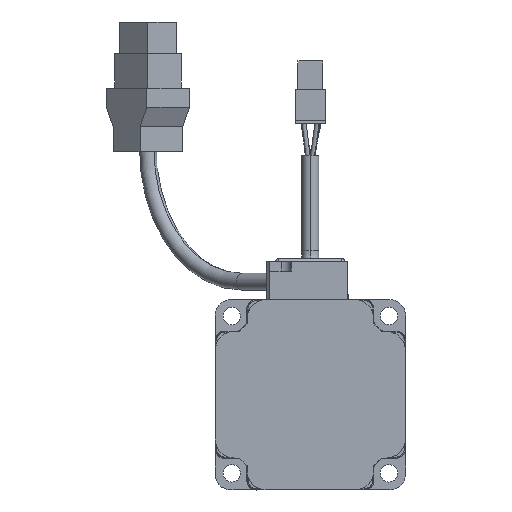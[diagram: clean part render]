
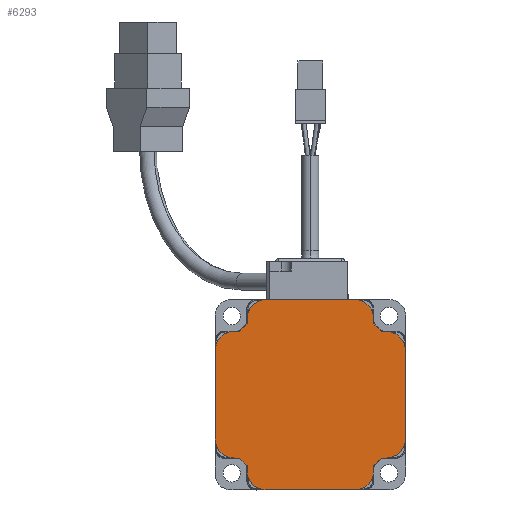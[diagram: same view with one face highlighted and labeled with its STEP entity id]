
A CAD part, front view. The second image highlights one B-rep face of the part: STEP entity #6293.
In plain terms, the highlighted planar face has unit normal (0, -1, 0).
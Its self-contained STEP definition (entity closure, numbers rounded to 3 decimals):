
#52=DIRECTION('',(1.,0.,0.));
#53=VECTOR('',#52,1.597);
#54=CARTESIAN_POINT('',(22.338,-70.75,-19.935));
#55=LINE('',#54,#53);
#100=CARTESIAN_POINT('',(-13.935,-70.75,23.935));
#101=DIRECTION('',(0.,1.,0.));
#102=DIRECTION('',(-1.,0.,0.));
#103=AXIS2_PLACEMENT_3D('',#100,#101,#102);
#105=CARTESIAN_POINT('',(13.935,-70.75,23.935));
#106=DIRECTION('',(0.,1.,0.));
#107=DIRECTION('',(0.,0.,1.));
#108=AXIS2_PLACEMENT_3D('',#105,#106,#107);
#110=DIRECTION('',(0.,0.,-1.));
#111=VECTOR('',#110,1.597);
#112=CARTESIAN_POINT('',(19.935,-70.75,23.935));
#113=LINE('',#112,#111);
#114=CARTESIAN_POINT('',(0.,-70.75,0.));
#115=DIRECTION('',(0.,1.,0.));
#116=DIRECTION('',(0.666,0.,0.746));
#117=AXIS2_PLACEMENT_3D('',#114,#115,#116);
#119=DIRECTION('',(1.,0.,0.));
#120=VECTOR('',#119,1.597);
#121=CARTESIAN_POINT('',(22.338,-70.75,19.935));
#122=LINE('',#121,#120);
#123=CARTESIAN_POINT('',(23.935,-70.75,13.935));
#124=DIRECTION('',(0.,1.,0.));
#125=DIRECTION('',(0.,0.,1.));
#126=AXIS2_PLACEMENT_3D('',#123,#124,#125);
#128=DIRECTION('',(0.,0.,-1.));
#129=VECTOR('',#128,27.87);
#130=CARTESIAN_POINT('',(29.935,-70.75,13.935));
#131=LINE('',#130,#129);
#132=CARTESIAN_POINT('',(23.935,-70.75,-13.935));
#133=DIRECTION('',(0.,1.,0.));
#134=DIRECTION('',(1.,0.,0.));
#135=AXIS2_PLACEMENT_3D('',#132,#133,#134);
#137=CARTESIAN_POINT('',(0.,-70.75,0.));
#138=DIRECTION('',(0.,1.,0.));
#139=DIRECTION('',(0.746,0.,-0.666));
#140=AXIS2_PLACEMENT_3D('',#137,#138,#139);
#142=CARTESIAN_POINT('',(13.935,-70.75,-23.935));
#143=DIRECTION('',(0.,1.,0.));
#144=DIRECTION('',(1.,0.,0.));
#145=AXIS2_PLACEMENT_3D('',#142,#143,#144);
#147=CARTESIAN_POINT('',(-13.935,-70.75,-23.935));
#148=DIRECTION('',(0.,1.,0.));
#149=DIRECTION('',(0.,0.,-1.));
#150=AXIS2_PLACEMENT_3D('',#147,#148,#149);
#152=CARTESIAN_POINT('',(0.,-70.75,0.));
#153=DIRECTION('',(0.,1.,0.));
#154=DIRECTION('',(-0.666,0.,-0.746));
#155=AXIS2_PLACEMENT_3D('',#152,#153,#154);
#157=CARTESIAN_POINT('',(-23.935,-70.75,-13.935));
#158=DIRECTION('',(0.,1.,0.));
#159=DIRECTION('',(0.,0.,-1.));
#160=AXIS2_PLACEMENT_3D('',#157,#158,#159);
#162=CARTESIAN_POINT('',(-23.935,-70.75,13.935));
#163=DIRECTION('',(0.,1.,0.));
#164=DIRECTION('',(-1.,0.,0.));
#165=AXIS2_PLACEMENT_3D('',#162,#163,#164);
#167=CARTESIAN_POINT('',(0.,-70.75,0.));
#168=DIRECTION('',(0.,1.,0.));
#169=DIRECTION('',(-0.746,0.,0.666));
#170=AXIS2_PLACEMENT_3D('',#167,#168,#169);
#267=DIRECTION('',(-1.,0.,0.));
#268=VECTOR('',#267,1.597);
#269=CARTESIAN_POINT('',(-22.338,-70.75,19.935));
#270=LINE('',#269,#268);
#279=DIRECTION('',(0.,0.,-1.));
#280=VECTOR('',#279,1.597);
#281=CARTESIAN_POINT('',(-19.935,-70.75,23.935));
#282=LINE('',#281,#280);
#291=DIRECTION('',(0.,0.,-1.));
#292=VECTOR('',#291,27.87);
#293=CARTESIAN_POINT('',(-29.935,-70.75,13.935));
#294=LINE('',#293,#292);
#398=DIRECTION('',(0.,0.,-1.));
#399=VECTOR('',#398,1.597);
#400=CARTESIAN_POINT('',(-19.935,-70.75,-22.338));
#401=LINE('',#400,#399);
#406=DIRECTION('',(1.,0.,0.));
#407=VECTOR('',#406,1.597);
#408=CARTESIAN_POINT('',(-23.935,-70.75,-19.935));
#409=LINE('',#408,#407);
#422=DIRECTION('',(1.,0.,0.));
#423=VECTOR('',#422,27.87);
#424=CARTESIAN_POINT('',(-13.935,-70.75,-29.935));
#425=LINE('',#424,#423);
#815=DIRECTION('',(-1.,0.,0.));
#816=VECTOR('',#815,27.87);
#817=CARTESIAN_POINT('',(13.935,-70.75,29.935));
#818=LINE('',#817,#816);
#4938=DIRECTION('',(0.,0.,1.));
#4939=VECTOR('',#4938,1.597);
#4940=CARTESIAN_POINT('',(19.935,-70.75,-23.935));
#4941=LINE('',#4940,#4939);
#5355=CARTESIAN_POINT('',(29.935,-70.75,-13.935));
#5356=VERTEX_POINT('',#5355);
#5402=CARTESIAN_POINT('',(-13.935,-70.75,-29.935));
#5403=VERTEX_POINT('',#5402);
#5446=CARTESIAN_POINT('',(-29.935,-70.75,13.935));
#5447=VERTEX_POINT('',#5446);
#5489=CARTESIAN_POINT('',(13.935,-70.75,29.935));
#5490=VERTEX_POINT('',#5489);
#5493=CARTESIAN_POINT('',(19.935,-70.75,23.935));
#5494=VERTEX_POINT('',#5493);
#5495=CARTESIAN_POINT('',(19.935,-70.75,22.338));
#5496=VERTEX_POINT('',#5495);
#5497=CARTESIAN_POINT('',(22.338,-70.75,19.935));
#5498=VERTEX_POINT('',#5497);
#5499=CARTESIAN_POINT('',(23.935,-70.75,19.935));
#5500=VERTEX_POINT('',#5499);
#5501=CARTESIAN_POINT('',(29.935,-70.75,13.935));
#5502=VERTEX_POINT('',#5501);
#5503=CARTESIAN_POINT('',(-19.935,-70.75,23.935));
#5504=CARTESIAN_POINT('',(-13.935,-70.75,29.935));
#5505=VERTEX_POINT('',#5503);
#5506=VERTEX_POINT('',#5504);
#5507=CARTESIAN_POINT('',(23.935,-70.75,-19.935));
#5508=VERTEX_POINT('',#5507);
#5509=CARTESIAN_POINT('',(22.338,-70.75,-19.935));
#5510=VERTEX_POINT('',#5509);
#5511=CARTESIAN_POINT('',(19.935,-70.75,-22.338));
#5512=VERTEX_POINT('',#5511);
#5513=CARTESIAN_POINT('',(19.935,-70.75,-23.935));
#5514=VERTEX_POINT('',#5513);
#5515=CARTESIAN_POINT('',(13.935,-70.75,-29.935));
#5516=VERTEX_POINT('',#5515);
#5517=CARTESIAN_POINT('',(-19.935,-70.75,-23.935));
#5518=VERTEX_POINT('',#5517);
#5519=CARTESIAN_POINT('',(-19.935,-70.75,-22.338));
#5520=VERTEX_POINT('',#5519);
#5521=CARTESIAN_POINT('',(-22.338,-70.75,-19.935));
#5522=VERTEX_POINT('',#5521);
#5523=CARTESIAN_POINT('',(-23.935,-70.75,-19.935));
#5524=VERTEX_POINT('',#5523);
#5525=CARTESIAN_POINT('',(-29.935,-70.75,-13.935));
#5526=VERTEX_POINT('',#5525);
#5527=CARTESIAN_POINT('',(-23.935,-70.75,19.935));
#5528=VERTEX_POINT('',#5527);
#5529=CARTESIAN_POINT('',(-22.338,-70.75,19.935));
#5530=VERTEX_POINT('',#5529);
#5531=CARTESIAN_POINT('',(-19.935,-70.75,22.338));
#5532=VERTEX_POINT('',#5531);
#6241=CARTESIAN_POINT('',(0.,-70.75,0.));
#6242=DIRECTION('',(0.,1.,0.));
#6243=DIRECTION('',(-1.,0.,0.));
#6244=AXIS2_PLACEMENT_3D('',#6241,#6242,#6243);
#6245=PLANE('',#6244);
#6247=ORIENTED_EDGE('',*,*,#6246,.T.);
#6249=ORIENTED_EDGE('',*,*,#6248,.F.);
#6251=ORIENTED_EDGE('',*,*,#6250,.T.);
#6253=ORIENTED_EDGE('',*,*,#6252,.T.);
#6255=ORIENTED_EDGE('',*,*,#6254,.T.);
#6257=ORIENTED_EDGE('',*,*,#6256,.T.);
#6259=ORIENTED_EDGE('',*,*,#6258,.T.);
#6260=ORIENTED_EDGE('',*,*,#6233,.T.);
#6261=ORIENTED_EDGE('',*,*,#6170,.T.);
#6262=ORIENTED_EDGE('',*,*,#6155,.F.);
#6264=ORIENTED_EDGE('',*,*,#6263,.T.);
#6266=ORIENTED_EDGE('',*,*,#6265,.F.);
#6268=ORIENTED_EDGE('',*,*,#6267,.T.);
#6270=ORIENTED_EDGE('',*,*,#6269,.F.);
#6272=ORIENTED_EDGE('',*,*,#6271,.T.);
#6274=ORIENTED_EDGE('',*,*,#6273,.F.);
#6276=ORIENTED_EDGE('',*,*,#6275,.T.);
#6278=ORIENTED_EDGE('',*,*,#6277,.F.);
#6280=ORIENTED_EDGE('',*,*,#6279,.T.);
#6282=ORIENTED_EDGE('',*,*,#6281,.F.);
#6284=ORIENTED_EDGE('',*,*,#6283,.T.);
#6286=ORIENTED_EDGE('',*,*,#6285,.F.);
#6288=ORIENTED_EDGE('',*,*,#6287,.T.);
#6290=ORIENTED_EDGE('',*,*,#6289,.F.);
#6291=EDGE_LOOP('',(#6247,#6249,#6251,#6253,#6255,#6257,#6259,#6260,#6261,#6262,
#6264,#6266,#6268,#6270,#6272,#6274,#6276,#6278,#6280,#6282,#6284,#6286,#6288,
#6290));
#6292=FACE_OUTER_BOUND('',#6291,.F.);
#104=CIRCLE('',#103,6.);
#109=CIRCLE('',#108,6.);
#118=CIRCLE('',#117,29.94);
#127=CIRCLE('',#126,6.);
#136=CIRCLE('',#135,6.);
#141=CIRCLE('',#140,29.94);
#146=CIRCLE('',#145,6.);
#151=CIRCLE('',#150,6.);
#156=CIRCLE('',#155,29.94);
#161=CIRCLE('',#160,6.);
#166=CIRCLE('',#165,6.);
#171=CIRCLE('',#170,29.94);
#6155=EDGE_CURVE('',#5510,#5508,#55,.T.);
#6170=EDGE_CURVE('',#5356,#5508,#136,.T.);
#6233=EDGE_CURVE('',#5502,#5356,#131,.T.);
#6246=EDGE_CURVE('',#5505,#5506,#104,.T.);
#6248=EDGE_CURVE('',#5490,#5506,#818,.T.);
#6250=EDGE_CURVE('',#5490,#5494,#109,.T.);
#6252=EDGE_CURVE('',#5494,#5496,#113,.T.);
#6254=EDGE_CURVE('',#5496,#5498,#118,.T.);
#6256=EDGE_CURVE('',#5498,#5500,#122,.T.);
#6258=EDGE_CURVE('',#5500,#5502,#127,.T.);
#6263=EDGE_CURVE('',#5510,#5512,#141,.T.);
#6265=EDGE_CURVE('',#5514,#5512,#4941,.T.);
#6267=EDGE_CURVE('',#5514,#5516,#146,.T.);
#6269=EDGE_CURVE('',#5403,#5516,#425,.T.);
#6271=EDGE_CURVE('',#5403,#5518,#151,.T.);
#6273=EDGE_CURVE('',#5520,#5518,#401,.T.);
#6275=EDGE_CURVE('',#5520,#5522,#156,.T.);
#6277=EDGE_CURVE('',#5524,#5522,#409,.T.);
#6279=EDGE_CURVE('',#5524,#5526,#161,.T.);
#6281=EDGE_CURVE('',#5447,#5526,#294,.T.);
#6283=EDGE_CURVE('',#5447,#5528,#166,.T.);
#6285=EDGE_CURVE('',#5530,#5528,#270,.T.);
#6287=EDGE_CURVE('',#5530,#5532,#171,.T.);
#6289=EDGE_CURVE('',#5505,#5532,#282,.T.);
#6293=ADVANCED_FACE('',(#6292),#6245,.F.);
